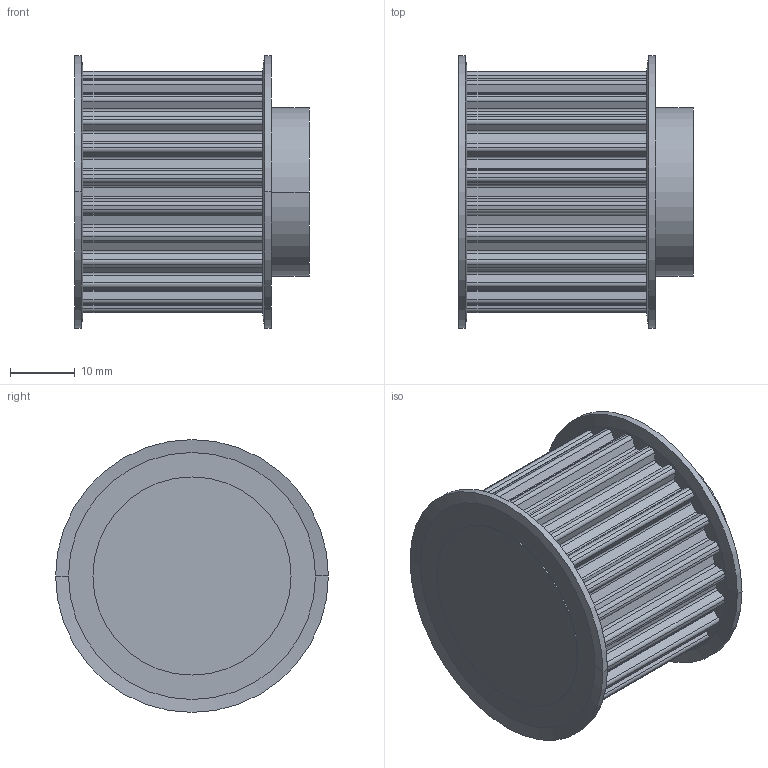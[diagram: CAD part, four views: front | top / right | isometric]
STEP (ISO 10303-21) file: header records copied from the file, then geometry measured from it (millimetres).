
FILE_DESCRIPTION( ( '' ), '1' );
FILE_NAME( 'C:/Users/Stangenbergd/Documents/CAD_Step/1/16242400.stp', '2021-10-19T08:45:50', ( '' ), ( '' ), ' ', ' ', ' ' );
FILE_SCHEMA( ( 'CONFIG_CONTROL_DESIGN' ) );
Length unit declared in the file: millimetre
Products named in the file (1): 1
Bounding box: 36.13 x 42 x 42 mm (x, y, z)
Volume: 33105.8 mm3; surface area: 9102.9 mm2
Topology: 1 solids, 1 shells, 217 faces, 622 edges, 412 vertices
Faces by surface type: cylinder 130, plane 79, cone 8
Entity records: 7244 total; most frequent: DIRECTION 1326, CARTESIAN_POINT 1252, ORIENTED_EDGE 1244, EDGE_CURVE 622, AXIS2_PLACEMENT_3D 486, VERTEX_POINT 412, LINE 354, VECTOR 354
